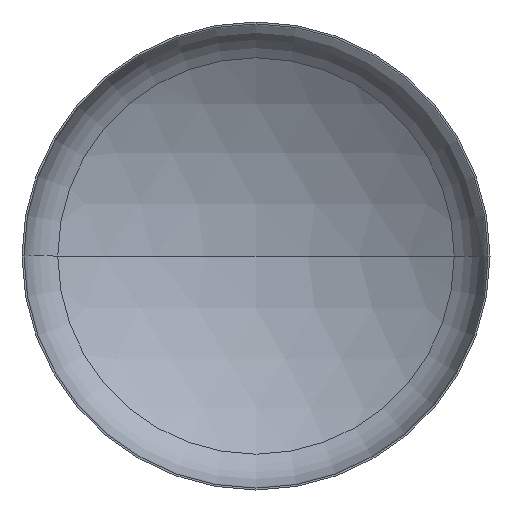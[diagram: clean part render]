
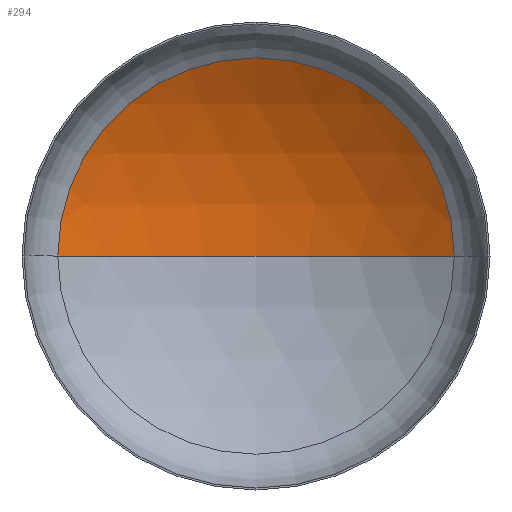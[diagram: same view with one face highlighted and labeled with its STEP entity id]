
A CAD part, front view. The second image highlights one B-rep face of the part: STEP entity #294.
In plain terms, the highlighted spherical face has radius 6400 mm.
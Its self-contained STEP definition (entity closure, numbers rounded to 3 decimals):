
#30 = AXIS2_PLACEMENT_3D ( 'NONE', #176, #242, #218 ) ;
#64 = VERTEX_POINT ( 'NONE', #317 ) ;
#66 = AXIS2_PLACEMENT_3D ( 'NONE', #88, #87, #86 ) ;
#70 = AXIS2_PLACEMENT_3D ( 'NONE', #290, #292, #269 ) ;
#76 = AXIS2_PLACEMENT_3D ( 'NONE', #378, #304, #300 ) ;
#81 = ORIENTED_EDGE ( 'NONE', *, *, #129, .F. ) ;
#86 = DIRECTION ( 'NONE',  ( 1., 0., 0. ) ) ;
#87 = DIRECTION ( 'NONE',  ( 0., 0., 1. ) ) ;
#88 = CARTESIAN_POINT ( 'NONE',  ( 0., -4286.084, 0. ) ) ;
#91 = VERTEX_POINT ( 'NONE', #308 ) ;
#125 = VERTEX_POINT ( 'NONE', #255 ) ;
#126 = EDGE_CURVE ( 'NONE', #91, #125, #162, .T. ) ;
#128 = EDGE_CURVE ( 'NONE', #64, #91, #369, .T. ) ;
#129 = EDGE_CURVE ( 'NONE', #64, #125, #259, .T. ) ;
#162 = CIRCLE ( 'NONE', #76, 3388.162 ) ;
#176 = CARTESIAN_POINT ( 'NONE',  ( 0., -4286.084, 0. ) ) ;
#201 = ORIENTED_EDGE ( 'NONE', *, *, #126, .T. ) ;
#216 = ORIENTED_EDGE ( 'NONE', *, *, #128, .T. ) ;
#217 = EDGE_LOOP ( 'NONE', ( #81, #216, #201 ) ) ;
#218 = DIRECTION ( 'NONE',  ( -1., 0., 0. ) ) ;
#242 = DIRECTION ( 'NONE',  ( 0., 0., -1. ) ) ;
#255 = CARTESIAN_POINT ( 'NONE',  ( -3388.162, 1143.498, 0. ) ) ;
#259 = CIRCLE ( 'NONE', #66, 6400. ) ;
#269 = DIRECTION ( 'NONE',  ( -1., 0., 0. ) ) ;
#290 = CARTESIAN_POINT ( 'NONE',  ( 0., -4286.084, 0. ) ) ;
#291 = FACE_OUTER_BOUND ( 'NONE', #217, .T. ) ;
#292 = DIRECTION ( 'NONE',  ( 0., 0., -1. ) ) ;
#294 = ADVANCED_FACE ( 'NONE', ( #291 ), #352, .F. ) ;
#300 = DIRECTION ( 'NONE',  ( 1., 0., 0. ) ) ;
#304 = DIRECTION ( 'NONE',  ( 0., -1., 0. ) ) ;
#308 = CARTESIAN_POINT ( 'NONE',  ( 3388.162, 1143.498, 0. ) ) ;
#317 = CARTESIAN_POINT ( 'NONE',  ( 0., 2113.916, 0. ) ) ;
#352 = SPHERICAL_SURFACE ( 'NONE', #30, 6400. ) ;
#369 = CIRCLE ( 'NONE', #70, 6400. ) ;
#378 = CARTESIAN_POINT ( 'NONE',  ( 0., 1143.498, 0. ) ) ;
